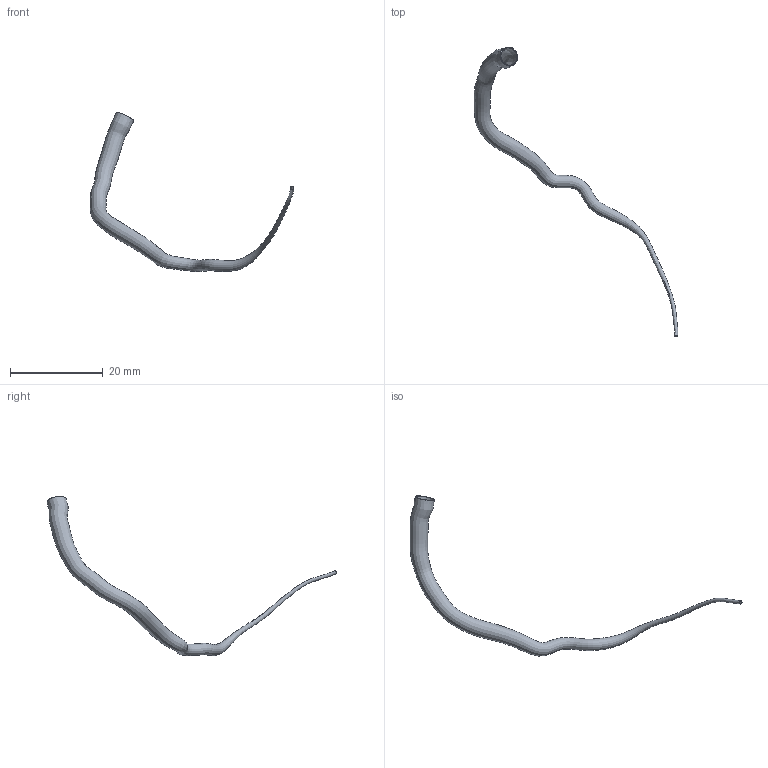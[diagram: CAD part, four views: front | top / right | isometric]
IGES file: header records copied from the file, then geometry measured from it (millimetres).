
Global section: file name: C:\Documents and Settings\Administrator\Desktop\FDA-Pig\Domestic LCA\Pig_000010\lad.seg.es.igs; native system: Rhinoceros ( May 19 2006 ); preprocessor: Trout Lake IGES 012 May 19 2006; date: 111205.183741; units: centimetre
Bounding box: 43.88 x 62.41 x 34.29 mm (x, y, z)
Surface area: 1561 mm2 (no closed solid volume)
Topology: 0 solids, 0 shells, 4 faces, 13 edges, 10 vertices
Faces by surface type: bspline 4
